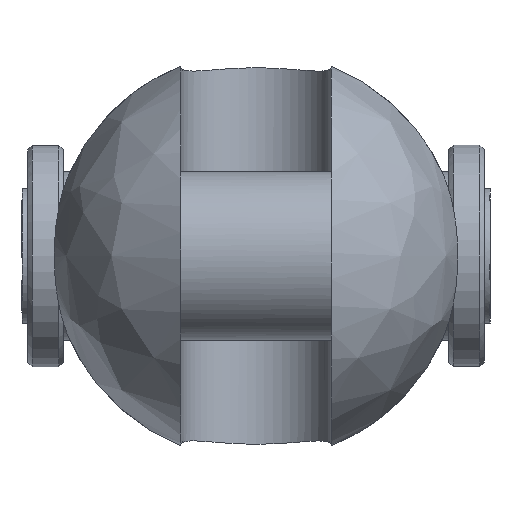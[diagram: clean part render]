
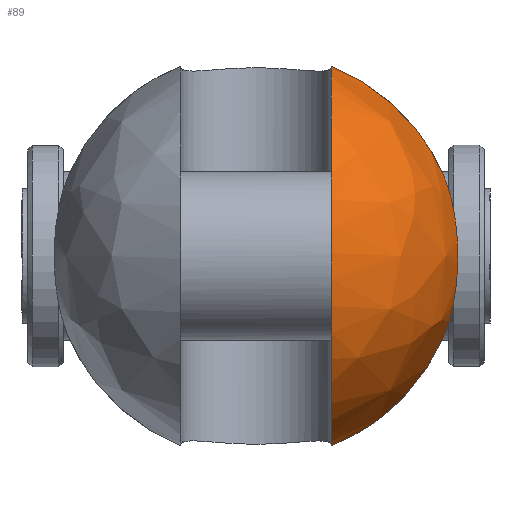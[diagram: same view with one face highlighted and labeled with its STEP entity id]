
A CAD part, left-side view. The second image highlights one B-rep face of the part: STEP entity #89.
In plain terms, the highlighted free-form (B-spline) face has degree [2, 2] with [9, 5] control points.
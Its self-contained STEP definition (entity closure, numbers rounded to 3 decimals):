
#89=ADVANCED_FACE('',(#164),#1306,.T.);
#164=FACE_OUTER_BOUND('',#249,.T.);
#249=EDGE_LOOP('',(#583,#584,#585,#586));
#583=ORIENTED_EDGE('',*,*,#811,.T.);
#584=ORIENTED_EDGE('',*,*,#832,.F.);
#585=ORIENTED_EDGE('',*,*,#849,.T.);
#586=ORIENTED_EDGE('',*,*,#827,.F.);
#811=EDGE_CURVE('',#1192,#1191,#1045,.T.);
#827=EDGE_CURVE('',#1192,#1204,#1055,.T.);
#832=EDGE_CURVE('',#1211,#1191,#1056,.T.);
#849=EDGE_CURVE('',#1211,#1204,#960,.T.);
#960=B_SPLINE_CURVE_WITH_KNOTS('',3,(#3067,#3068,#3069,#3070,#3071,#3072,
#3073,#3074,#3075,#3076,#3077,#3078,#3079,#3080),.UNSPECIFIED.,.F.,.F.,
(4,2,2,2,2,2,4),(-20.281,-17.119,-13.63,
-10.141,-6.652,-3.162,0.),.UNSPECIFIED.);
#1045=(
BOUNDED_CURVE()
B_SPLINE_CURVE(2,(#2912,#2913,#2914,#2915,#2916),.UNSPECIFIED.,.F.,.F.)
B_SPLINE_CURVE_WITH_KNOTS((3,2,3),(-67.141,-33.571,
0.),.UNSPECIFIED.)
CURVE()
GEOMETRIC_REPRESENTATION_ITEM()
RATIONAL_B_SPLINE_CURVE((1.,0.707,1.,0.707,1.))
REPRESENTATION_ITEM('')
);
#1055=(
BOUNDED_CURVE()
B_SPLINE_CURVE(2,(#2990,#2991,#2992),.UNSPECIFIED.,.F.,.F.)
B_SPLINE_CURVE_WITH_KNOTS((3,3),(0.,18.1),.UNSPECIFIED.)
CURVE()
GEOMETRIC_REPRESENTATION_ITEM()
RATIONAL_B_SPLINE_CURVE((1.,0.924,1.))
REPRESENTATION_ITEM('')
);
#1056=(
BOUNDED_CURVE()
B_SPLINE_CURVE(2,(#3001,#3002,#3003),.UNSPECIFIED.,.F.,.F.)
B_SPLINE_CURVE_WITH_KNOTS((3,3),(0.,18.1),.UNSPECIFIED.)
CURVE()
GEOMETRIC_REPRESENTATION_ITEM()
RATIONAL_B_SPLINE_CURVE((1.,0.924,1.))
REPRESENTATION_ITEM('')
);
#1191=VERTEX_POINT('',#2837);
#1192=VERTEX_POINT('',#2838);
#1204=VERTEX_POINT('',#2850);
#1211=VERTEX_POINT('',#2857);
#1306=(
BOUNDED_SURFACE()
B_SPLINE_SURFACE(2,2,((#2445,#2446,#2447,#2448,#2449),(#2450,#2451,#2452,
#2453,#2454),(#2455,#2456,#2457,#2458,#2459),(#2460,#2461,#2462,#2463,#2464),
(#2465,#2466,#2467,#2468,#2469),(#2470,#2471,#2472,#2473,#2474),(#2475,
#2476,#2477,#2478,#2479),(#2480,#2481,#2482,#2483,#2484),(#2485,#2486,#2487,
#2488,#2489)),.UNSPECIFIED.,.T.,.F.,.F.)
B_SPLINE_SURFACE_WITH_KNOTS((3,2,2,2,3),(3,2,3),(0.,36.128,72.257,
108.385,144.513),(0.,36.128,72.257),
 .UNSPECIFIED.)
GEOMETRIC_REPRESENTATION_ITEM()
RATIONAL_B_SPLINE_SURFACE(((1.,0.707,1.,0.707,1.),
(0.707,0.5,0.707,0.5,0.707),(1.,0.707,
1.,0.707,1.),(0.707,0.5,0.707,0.5,0.707),
(1.,0.707,1.,0.707,1.),(0.707,0.5,0.707,
0.5,0.707),(1.,0.707,1.,0.707,1.),(0.707,
0.5,0.707,0.5,0.707),(1.,0.707,1.,0.707,
1.)))
REPRESENTATION_ITEM('')
SURFACE()
);
#2445=CARTESIAN_POINT('',(-33.,0.,0.));
#2446=CARTESIAN_POINT('',(-33.,23.,0.));
#2447=CARTESIAN_POINT('',(-10.,23.,0.));
#2448=CARTESIAN_POINT('',(13.,23.,0.));
#2449=CARTESIAN_POINT('',(13.,0.,0.));
#2450=CARTESIAN_POINT('',(-33.,0.,0.));
#2451=CARTESIAN_POINT('',(-33.,23.,23.));
#2452=CARTESIAN_POINT('',(-10.,23.,23.));
#2453=CARTESIAN_POINT('',(13.,23.,23.));
#2454=CARTESIAN_POINT('',(13.,0.,0.));
#2455=CARTESIAN_POINT('',(-33.,0.,0.));
#2456=CARTESIAN_POINT('',(-33.,0.,23.));
#2457=CARTESIAN_POINT('',(-10.,0.,23.));
#2458=CARTESIAN_POINT('',(13.,0.,23.));
#2459=CARTESIAN_POINT('',(13.,0.,0.));
#2460=CARTESIAN_POINT('',(-33.,0.,0.));
#2461=CARTESIAN_POINT('',(-33.,-23.,23.));
#2462=CARTESIAN_POINT('',(-10.,-23.,23.));
#2463=CARTESIAN_POINT('',(13.,-23.,23.));
#2464=CARTESIAN_POINT('',(13.,0.,0.));
#2465=CARTESIAN_POINT('',(-33.,0.,0.));
#2466=CARTESIAN_POINT('',(-33.,-23.,0.));
#2467=CARTESIAN_POINT('',(-10.,-23.,0.));
#2468=CARTESIAN_POINT('',(13.,-23.,0.));
#2469=CARTESIAN_POINT('',(13.,0.,0.));
#2470=CARTESIAN_POINT('',(-33.,0.,0.));
#2471=CARTESIAN_POINT('',(-33.,-23.,-23.));
#2472=CARTESIAN_POINT('',(-10.,-23.,-23.));
#2473=CARTESIAN_POINT('',(13.,-23.,-23.));
#2474=CARTESIAN_POINT('',(13.,0.,0.));
#2475=CARTESIAN_POINT('',(-33.,0.,0.));
#2476=CARTESIAN_POINT('',(-33.,0.,-23.));
#2477=CARTESIAN_POINT('',(-10.,0.,-23.));
#2478=CARTESIAN_POINT('',(13.,0.,-23.));
#2479=CARTESIAN_POINT('',(13.,0.,0.));
#2480=CARTESIAN_POINT('',(-33.,0.,0.));
#2481=CARTESIAN_POINT('',(-33.,23.,-23.));
#2482=CARTESIAN_POINT('',(-10.,23.,-23.));
#2483=CARTESIAN_POINT('',(13.,23.,-23.));
#2484=CARTESIAN_POINT('',(13.,0.,0.));
#2485=CARTESIAN_POINT('',(-33.,0.,0.));
#2486=CARTESIAN_POINT('',(-33.,23.,0.));
#2487=CARTESIAN_POINT('',(-10.,23.,0.));
#2488=CARTESIAN_POINT('',(13.,23.,0.));
#2489=CARTESIAN_POINT('',(13.,0.,0.));
#2837=CARTESIAN_POINT('',(-10.,-8.5,-21.372));
#2838=CARTESIAN_POINT('',(-10.,-8.5,21.372));
#2850=CARTESIAN_POINT('',(-10.,-21.136,9.069));
#2857=CARTESIAN_POINT('',(-10.,-21.136,-9.069));
#2912=CARTESIAN_POINT('',(-10.,-8.5,21.372));
#2913=CARTESIAN_POINT('',(-31.372,-8.5,21.372));
#2914=CARTESIAN_POINT('',(-31.372,-8.5,0.));
#2915=CARTESIAN_POINT('',(-31.372,-8.5,-21.372));
#2916=CARTESIAN_POINT('',(-10.,-8.5,-21.372));
#2990=CARTESIAN_POINT('',(-10.,-8.5,21.372));
#2991=CARTESIAN_POINT('',(-10.,-17.372,17.843));
#2992=CARTESIAN_POINT('',(-10.,-21.136,9.069));
#3001=CARTESIAN_POINT('',(-10.,-21.136,-9.069));
#3002=CARTESIAN_POINT('',(-10.,-17.372,-17.843));
#3003=CARTESIAN_POINT('',(-10.,-8.5,-21.372));
#3067=CARTESIAN_POINT('',(-10.,-21.136,-9.069));
#3068=CARTESIAN_POINT('',(-10.69,-21.463,-8.309));
#3069=CARTESIAN_POINT('',(-11.292,-21.74,-7.463));
#3070=CARTESIAN_POINT('',(-12.295,-22.197,-5.677));
#3071=CARTESIAN_POINT('',(-12.754,-22.402,-4.582));
#3072=CARTESIAN_POINT('',(-13.356,-22.669,-2.294));
#3073=CARTESIAN_POINT('',(-13.5,-22.732,-1.101));
#3074=CARTESIAN_POINT('',(-13.5,-22.732,1.101));
#3075=CARTESIAN_POINT('',(-13.356,-22.669,2.294));
#3076=CARTESIAN_POINT('',(-12.754,-22.402,4.582));
#3077=CARTESIAN_POINT('',(-12.295,-22.197,5.677));
#3078=CARTESIAN_POINT('',(-11.292,-21.74,7.463));
#3079=CARTESIAN_POINT('',(-10.69,-21.463,8.309));
#3080=CARTESIAN_POINT('',(-10.,-21.136,9.069));
